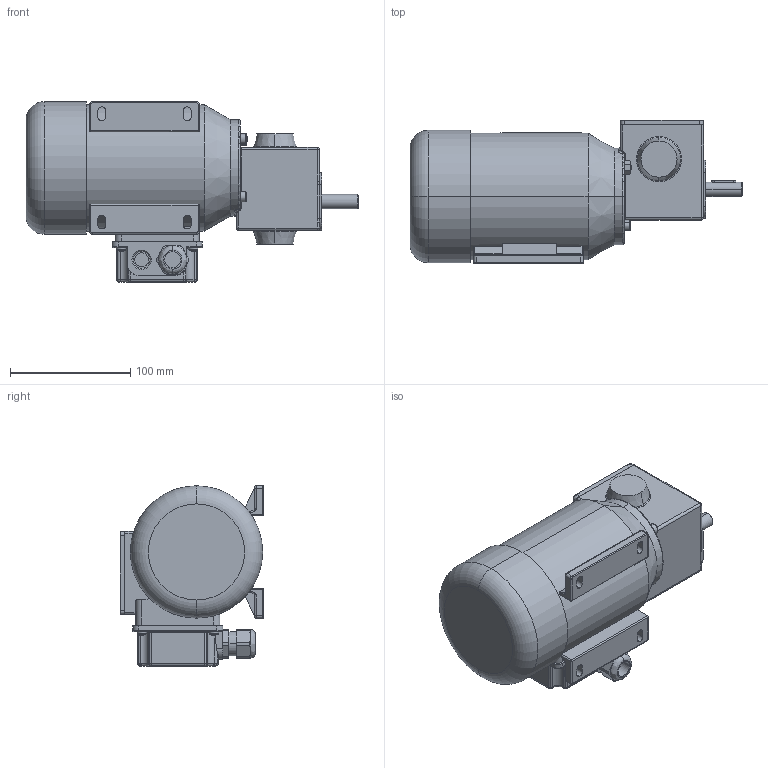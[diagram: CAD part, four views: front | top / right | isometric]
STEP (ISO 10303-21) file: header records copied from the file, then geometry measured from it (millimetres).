
FILE_DESCRIPTION (( 'STEP AP214' ), '1' );
FILE_NAME ('SN4B_120W_2800Upm_Drehstrom-Motor.STEP', '2021-09-22T14:48:35', ( '' ), ( '' ), 'SwSTEP 2.0', 'SolidWorks 2019', '' );
FILE_SCHEMA (( 'AUTOMOTIVE_DESIGN' ));
Length unit declared in the file: millimetre
Products named in the file (14): 05-M-286 I 120W_2800Upm; PF_A4x4x20; SN4B_3D_Export; hex nut style 1 gradeab_din_Hexagon Nut ISO 4032 - M6 - D - C; slotted countersunk flat head screw_din_DIN EN ISO 2009 - M5 x 12 - 12C; NBR_WDR_12x37x10; SN4B_120W_2800Upm_Drehstrom-Motor; socket set screw flat point_din_DIN 913 - M5 x 25-C; 04-G-006_3D_Export; hex bolt gradeab_din_DIN EN 24014 - M5 x 25 x 25-C; 04B-D-003; socket head cap screw_din_DIN 912 M5 x 16 --- 16C; 04B-W-003_3D_Export; K_26x6,5
Assembly tree (17 placements, depth 3):
  SN4B_120W_2800Upm_Drehstrom-Motor
    SN4B_3D_Export
      04-G-006_3D_Export
      04B-W-003_3D_Export
      04B-D-003
      K_26x6,5
      NBR_WDR_12x37x10
      PF_A4x4x20
      slotted countersunk flat head screw_din_DIN EN ISO 2009 - M5 x 12 - 12C  x4
      socket head cap screw_din_DIN 912 M5 x 16 --- 16C  x2
      hex bolt gradeab_din_DIN EN 24014 - M5 x 25 x 25-C
      socket set screw flat point_din_DIN 913 - M5 x 25-C
      hex nut style 1 gradeab_din_Hexagon Nut ISO 4032 - M6 - D - C
    05-M-286 I 120W_2800Upm
Bounding box: 276 x 119.5 x 150 mm (x, y, z)
Volume: 2070080.7 mm3; surface area: 189695.9 mm2
Topology: 18 solids, 19 shells, 993 faces, 2470 edges, 1531 vertices
Faces by surface type: plane 319, cylinder 302, cone 150, torus 142, bspline 51, sphere 29
Entity records: 30089 total; most frequent: CARTESIAN_POINT 7169, DIRECTION 4853, ORIENTED_EDGE 4566, EDGE_CURVE 2283, AXIS2_PLACEMENT_3D 1954, VERTEX_POINT 1438, CIRCLE 1060, EDGE_LOOP 1003
